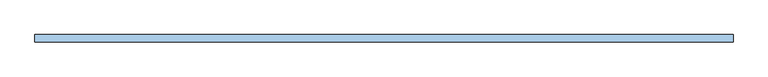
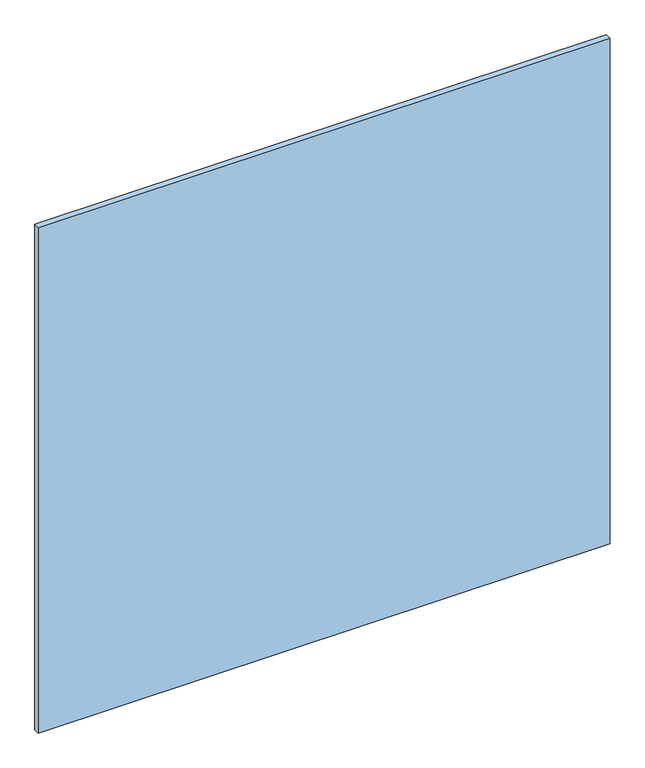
"""IFC4 building model written with IfcOpenShell, lengths in millimetres: window geometry, espejo biselado sin marco : ESP4-espejo biselado 107 x 101."""

from ifc_helpers import new_model, si_unit, origin, origin_with_axes, place, context, project, spatial, polyline, outline, extrude, source, transform, mapped, element, save


def window_e2f8e8b7(model_context):
    return source(origin(), model_context, "Body", "SweptSolid", [
        extrude(outline(polyline([(-535.0, 19.0), (-535.0, 30.0), (535.0, 30.0), (535.0, 19.0), (-535.0, 19.0)])), origin_with_axes(), (0.0, 0.0, 1.0), 1000.0),
    ])


if __name__ == "__main__":
    model = new_model("IFC4")
    model_context = context("Model", 3, world=origin())
    ifc_project = project(units=[si_unit("LENGTHUNIT", "METRE", prefix="MILLI")], contexts=[model_context])
    site = spatial("IfcSite", under=ifc_project)
    building = spatial("IfcBuilding", under=site)
    placement = place(None, origin())
    window_shape = window_e2f8e8b7(model_context)
    element("IfcWindow", 1, ObjectType="espejo biselado sin marco : ESP4-espejo biselado 107 x 101", at=placement, inside=building, context=model_context, shape_type="MappedRepresentation", body=[
        mapped(window_shape, transform((0.0, 0.0, 0.0), x_axis=(1.0, 0.0, 0.0), y_axis=(0.0, 1.0, 0.0), z_axis=(0.0, 0.0, 1.0))),
    ])
    save(model, "model.ifc")
